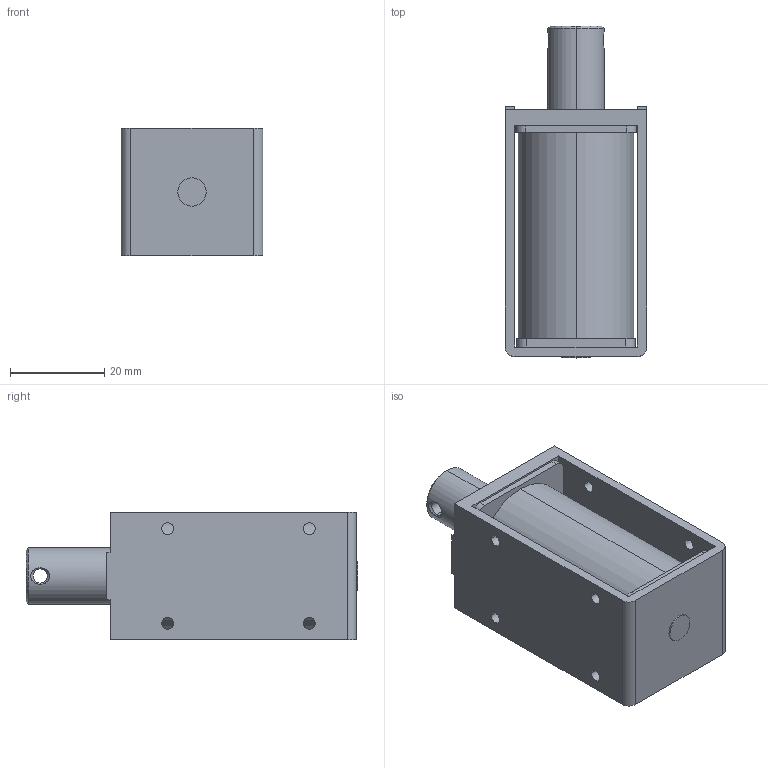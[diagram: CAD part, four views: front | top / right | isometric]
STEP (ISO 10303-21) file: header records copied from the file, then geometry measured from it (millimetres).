
FILE_DESCRIPTION (( 'STEP AP203' ), '1' );
FILE_NAME ('w_ca1253.STEP', '2014-07-14T02:47:25', ( 'jiba' ), ( 'Hewlett-Packard Company' ), 'SwSTEP 2.0', 'SolidWorks 2014', '' );
FILE_SCHEMA (( 'CONFIG_CONTROL_DESIGN' ));
Length unit declared in the file: millimetre
Products named in the file (3): Part28^w_ca1253; w_21253036; w_ca1253
Assembly tree (2 placements, depth 2):
  w_ca1253
    Part28^w_ca1253
    w_21253036
Bounding box: 30 x 70.3 x 27 mm (x, y, z)
Volume: 33286.1 mm3; surface area: 21706 mm2
Topology: 2 solids, 2 shells, 84 faces, 210 edges, 138 vertices
Faces by surface type: cylinder 43, plane 35, cone 6
Entity records: 2959 total; most frequent: CARTESIAN_POINT 521, DIRECTION 472, ORIENTED_EDGE 420, EDGE_CURVE 210, AXIS2_PLACEMENT_3D 177, VERTEX_POINT 138, LINE 118, VECTOR 118
